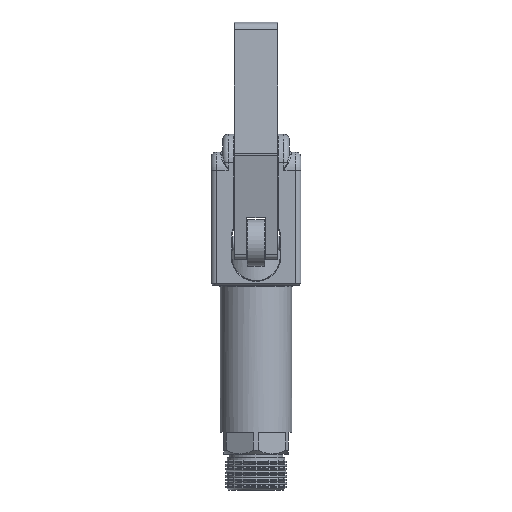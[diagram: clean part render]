
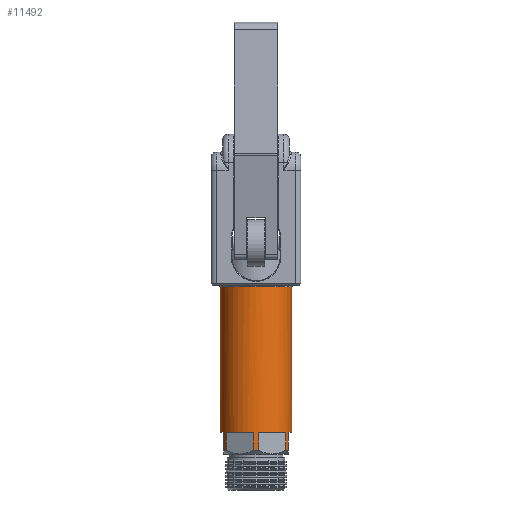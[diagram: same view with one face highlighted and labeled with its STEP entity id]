
A CAD part, front view. The second image highlights one B-rep face of the part: STEP entity #11492.
In plain terms, the highlighted cylindrical face has radius 10 mm (diameter 20 mm), a full revolution.
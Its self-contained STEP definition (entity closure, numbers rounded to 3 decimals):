
#4496=LINE('',#38486,#7866);
#4497=LINE('',#38487,#7867);
#4498=LINE('',#38489,#7868);
#4499=LINE('',#38490,#7869);
#4500=LINE('',#38492,#7870);
#4501=LINE('',#38493,#7871);
#4502=LINE('',#38495,#7872);
#4503=LINE('',#38496,#7873);
#4504=LINE('',#38498,#7874);
#4505=LINE('',#38499,#7875);
#4506=LINE('',#38501,#7876);
#4507=LINE('',#38502,#7877);
#7866=VECTOR('',#31033,1.);
#7867=VECTOR('',#31034,1.);
#7868=VECTOR('',#31037,1.);
#7869=VECTOR('',#31038,1.);
#7870=VECTOR('',#31041,1.);
#7871=VECTOR('',#31042,1.);
#7872=VECTOR('',#31045,1.);
#7873=VECTOR('',#31046,1.);
#7874=VECTOR('',#31049,1.);
#7875=VECTOR('',#31050,1.);
#7876=VECTOR('',#31053,1.);
#7877=VECTOR('',#31054,1.);
#11281=CYLINDRICAL_SURFACE('',#29114,10.);
#11492=ADVANCED_FACE('',(#13242,#13243),#11281,.T.);
#13242=FACE_BOUND('',#13538,.T.);
#13243=FACE_BOUND('',#13539,.T.);
#13538=EDGE_LOOP('',(#15851));
#13539=EDGE_LOOP('',(#15852,#15853,#15854,#15855,#15856,#15857,#15858,#15859,
#15860,#15861,#15862,#15863,#15864,#15865,#15866,#15867,#15868,#15869,#15870,
#15871,#15872,#15873,#15874,#15875));
#15851=ORIENTED_EDGE('',*,*,#25128,.T.);
#15852=ORIENTED_EDGE('',*,*,#24805,.T.);
#15853=ORIENTED_EDGE('',*,*,#24835,.F.);
#15854=ORIENTED_EDGE('',*,*,#24822,.T.);
#15855=ORIENTED_EDGE('',*,*,#24834,.F.);
#15856=ORIENTED_EDGE('',*,*,#24803,.T.);
#15857=ORIENTED_EDGE('',*,*,#24833,.F.);
#15858=ORIENTED_EDGE('',*,*,#24825,.T.);
#15859=ORIENTED_EDGE('',*,*,#24844,.F.);
#15860=ORIENTED_EDGE('',*,*,#24801,.T.);
#15861=ORIENTED_EDGE('',*,*,#24843,.F.);
#15862=ORIENTED_EDGE('',*,*,#24831,.T.);
#15863=ORIENTED_EDGE('',*,*,#24842,.F.);
#15864=ORIENTED_EDGE('',*,*,#24799,.T.);
#15865=ORIENTED_EDGE('',*,*,#24841,.F.);
#15866=ORIENTED_EDGE('',*,*,#24828,.T.);
#15867=ORIENTED_EDGE('',*,*,#24840,.F.);
#15868=ORIENTED_EDGE('',*,*,#24809,.T.);
#15869=ORIENTED_EDGE('',*,*,#24839,.F.);
#15870=ORIENTED_EDGE('',*,*,#24811,.T.);
#15871=ORIENTED_EDGE('',*,*,#24838,.F.);
#15872=ORIENTED_EDGE('',*,*,#24807,.T.);
#15873=ORIENTED_EDGE('',*,*,#24837,.F.);
#15874=ORIENTED_EDGE('',*,*,#24817,.F.);
#15875=ORIENTED_EDGE('',*,*,#24836,.F.);
#22725=VERTEX_POINT('',#38380);
#22726=VERTEX_POINT('',#38381);
#22727=VERTEX_POINT('',#38385);
#22728=VERTEX_POINT('',#38386);
#22729=VERTEX_POINT('',#38390);
#22730=VERTEX_POINT('',#38391);
#22731=VERTEX_POINT('',#38395);
#22732=VERTEX_POINT('',#38396);
#22733=VERTEX_POINT('',#38400);
#22734=VERTEX_POINT('',#38401);
#22735=VERTEX_POINT('',#38405);
#22736=VERTEX_POINT('',#38406);
#22737=VERTEX_POINT('',#38413);
#22739=VERTEX_POINT('',#38416);
#22744=VERTEX_POINT('',#38430);
#22745=VERTEX_POINT('',#38432);
#22747=VERTEX_POINT('',#38442);
#22748=VERTEX_POINT('',#38444);
#22749=VERTEX_POINT('',#38454);
#22750=VERTEX_POINT('',#38456);
#22751=VERTEX_POINT('',#38466);
#22752=VERTEX_POINT('',#38468);
#22753=VERTEX_POINT('',#38478);
#22754=VERTEX_POINT('',#38480);
#22930=VERTEX_POINT('',#39560);
#24799=EDGE_CURVE('',#22726,#22725,#28554,.T.);
#24801=EDGE_CURVE('',#22728,#22727,#28555,.T.);
#24803=EDGE_CURVE('',#22730,#22729,#28556,.T.);
#24805=EDGE_CURVE('',#22732,#22731,#28557,.T.);
#24807=EDGE_CURVE('',#22734,#22733,#28558,.T.);
#24809=EDGE_CURVE('',#22736,#22735,#28559,.T.);
#24811=EDGE_CURVE('',#22739,#22737,#28560,.T.);
#24817=EDGE_CURVE('',#22744,#22745,#28564,.T.);
#24822=EDGE_CURVE('',#22748,#22747,#28567,.T.);
#24825=EDGE_CURVE('',#22750,#22749,#28568,.T.);
#24828=EDGE_CURVE('',#22752,#22751,#28569,.T.);
#24831=EDGE_CURVE('',#22754,#22753,#28570,.T.);
#24833=EDGE_CURVE('',#22750,#22729,#4496,.T.);
#24834=EDGE_CURVE('',#22730,#22747,#4497,.T.);
#24835=EDGE_CURVE('',#22748,#22731,#4498,.T.);
#24836=EDGE_CURVE('',#22732,#22744,#4499,.T.);
#24837=EDGE_CURVE('',#22745,#22733,#4500,.T.);
#24838=EDGE_CURVE('',#22734,#22737,#4501,.T.);
#24839=EDGE_CURVE('',#22739,#22735,#4502,.T.);
#24840=EDGE_CURVE('',#22736,#22751,#4503,.T.);
#24841=EDGE_CURVE('',#22752,#22725,#4504,.T.);
#24842=EDGE_CURVE('',#22726,#22753,#4505,.T.);
#24843=EDGE_CURVE('',#22754,#22727,#4506,.T.);
#24844=EDGE_CURVE('',#22728,#22749,#4507,.T.);
#25128=EDGE_CURVE('',#22930,#22930,#28679,.T.);
#28554=CIRCLE('',#28863,10.);
#28555=CIRCLE('',#28865,10.);
#28556=CIRCLE('',#28867,10.);
#28557=CIRCLE('',#28869,10.);
#28558=CIRCLE('',#28871,10.);
#28559=CIRCLE('',#28873,10.);
#28560=CIRCLE('',#28875,10.);
#28564=CIRCLE('',#28880,10.);
#28567=CIRCLE('',#28884,10.);
#28568=CIRCLE('',#28886,10.);
#28569=CIRCLE('',#28888,10.);
#28570=CIRCLE('',#28890,10.);
#28679=CIRCLE('',#29112,10.);
#28863=AXIS2_PLACEMENT_3D('',#38382,#30968,#30969);
#28865=AXIS2_PLACEMENT_3D('',#38387,#30973,#30974);
#28867=AXIS2_PLACEMENT_3D('',#38392,#30978,#30979);
#28869=AXIS2_PLACEMENT_3D('',#38397,#30983,#30984);
#28871=AXIS2_PLACEMENT_3D('',#38402,#30988,#30989);
#28873=AXIS2_PLACEMENT_3D('',#38407,#30993,#30994);
#28875=AXIS2_PLACEMENT_3D('',#38415,#30997,#30998);
#28880=AXIS2_PLACEMENT_3D('',#38431,#31008,#31009);
#28884=AXIS2_PLACEMENT_3D('',#38443,#31017,#31018);
#28886=AXIS2_PLACEMENT_3D('',#38455,#31021,#31022);
#28888=AXIS2_PLACEMENT_3D('',#38467,#31025,#31026);
#28890=AXIS2_PLACEMENT_3D('',#38479,#31029,#31030);
#29112=AXIS2_PLACEMENT_3D('',#39559,#31623,#31624);
#29114=AXIS2_PLACEMENT_3D('',#39562,#31627,#31628);
#30968=DIRECTION('',(0.,0.,1.));
#30969=DIRECTION('',(1.,0.,0.));
#30973=DIRECTION('',(0.,0.,1.));
#30974=DIRECTION('',(1.,0.,0.));
#30978=DIRECTION('',(0.,0.,1.));
#30979=DIRECTION('',(1.,0.,0.));
#30983=DIRECTION('',(0.,0.,1.));
#30984=DIRECTION('',(1.,0.,0.));
#30988=DIRECTION('',(0.,0.,1.));
#30989=DIRECTION('',(1.,0.,0.));
#30993=DIRECTION('',(0.,0.,1.));
#30994=DIRECTION('',(1.,0.,0.));
#30997=DIRECTION('',(0.,0.,1.));
#30998=DIRECTION('',(-1.,0.,0.));
#31008=DIRECTION('',(0.,0.,-1.));
#31009=DIRECTION('',(-1.,0.,0.));
#31017=DIRECTION('',(0.,0.,1.));
#31018=DIRECTION('',(-1.,0.,0.));
#31021=DIRECTION('',(0.,0.,1.));
#31022=DIRECTION('',(-1.,0.,0.));
#31025=DIRECTION('',(0.,0.,1.));
#31026=DIRECTION('',(-1.,0.,0.));
#31029=DIRECTION('',(0.,0.,1.));
#31030=DIRECTION('',(-1.,0.,0.));
#31033=DIRECTION('',(0.,0.,1.));
#31034=DIRECTION('',(0.,0.,-1.));
#31037=DIRECTION('',(0.,0.,1.));
#31038=DIRECTION('',(0.,0.,-1.));
#31041=DIRECTION('',(0.,0.,1.));
#31042=DIRECTION('',(0.,0.,-1.));
#31045=DIRECTION('',(0.,0.,1.));
#31046=DIRECTION('',(0.,0.,-1.));
#31049=DIRECTION('',(0.,0.,1.));
#31050=DIRECTION('',(0.,0.,-1.));
#31053=DIRECTION('',(0.,0.,1.));
#31054=DIRECTION('',(0.,0.,-1.));
#31623=DIRECTION('',(0.,0.,-1.));
#31624=DIRECTION('',(1.,0.,0.));
#31627=DIRECTION('',(0.,0.,-1.));
#31628=DIRECTION('',(1.,0.,0.));
#38380=CARTESIAN_POINT('',(4.517,7.621,49.));
#38381=CARTESIAN_POINT('',(4.517,-1.097,49.));
#38382=CARTESIAN_POINT('',(-4.483,3.262,49.));
#38385=CARTESIAN_POINT('',(3.792,-2.353,49.));
#38386=CARTESIAN_POINT('',(-3.758,-6.712,49.));
#38387=CARTESIAN_POINT('',(-4.483,3.262,49.));
#38390=CARTESIAN_POINT('',(-5.208,-6.712,49.));
#38391=CARTESIAN_POINT('',(-12.758,-2.353,49.));
#38392=CARTESIAN_POINT('',(-4.483,3.262,49.));
#38395=CARTESIAN_POINT('',(-13.483,-1.097,49.));
#38396=CARTESIAN_POINT('',(-13.483,7.621,49.));
#38397=CARTESIAN_POINT('',(-4.483,3.262,49.));
#38400=CARTESIAN_POINT('',(-12.758,8.877,49.));
#38401=CARTESIAN_POINT('',(-5.208,13.236,49.));
#38402=CARTESIAN_POINT('',(-4.483,3.262,49.));
#38405=CARTESIAN_POINT('',(-3.758,13.236,49.));
#38406=CARTESIAN_POINT('',(3.792,8.877,49.));
#38407=CARTESIAN_POINT('',(-4.483,3.262,49.));
#38413=CARTESIAN_POINT('',(-5.208,13.236,44.));
#38415=CARTESIAN_POINT('',(-4.483,3.262,44.));
#38416=CARTESIAN_POINT('',(-3.758,13.236,44.));
#38430=CARTESIAN_POINT('',(-13.483,7.621,43.));
#38431=CARTESIAN_POINT('',(-4.483,3.262,43.));
#38432=CARTESIAN_POINT('',(-12.758,8.877,43.));
#38442=CARTESIAN_POINT('',(-12.758,-2.353,44.));
#38443=CARTESIAN_POINT('',(-4.483,3.262,44.));
#38444=CARTESIAN_POINT('',(-13.483,-1.097,44.));
#38454=CARTESIAN_POINT('',(-3.758,-6.712,44.));
#38455=CARTESIAN_POINT('',(-4.483,3.262,44.));
#38456=CARTESIAN_POINT('',(-5.208,-6.712,44.));
#38466=CARTESIAN_POINT('',(3.792,8.877,44.));
#38467=CARTESIAN_POINT('',(-4.483,3.262,44.));
#38468=CARTESIAN_POINT('',(4.517,7.621,44.));
#38478=CARTESIAN_POINT('',(4.517,-1.097,44.));
#38479=CARTESIAN_POINT('',(-4.483,3.262,44.));
#38480=CARTESIAN_POINT('',(3.792,-2.353,44.));
#38486=CARTESIAN_POINT('',(-5.208,-6.712,63.));
#38487=CARTESIAN_POINT('',(-12.758,-2.353,63.));
#38489=CARTESIAN_POINT('',(-13.483,-1.097,63.));
#38490=CARTESIAN_POINT('',(-13.483,7.621,63.));
#38492=CARTESIAN_POINT('',(-12.758,8.877,63.));
#38493=CARTESIAN_POINT('',(-5.208,13.236,63.));
#38495=CARTESIAN_POINT('',(-3.758,13.236,63.));
#38496=CARTESIAN_POINT('',(3.792,8.877,63.));
#38498=CARTESIAN_POINT('',(4.517,7.621,63.));
#38499=CARTESIAN_POINT('',(4.517,-1.097,63.));
#38501=CARTESIAN_POINT('',(3.792,-2.353,63.));
#38502=CARTESIAN_POINT('',(-3.758,-6.712,63.));
#39559=CARTESIAN_POINT('',(-4.483,3.262,89.5));
#39560=CARTESIAN_POINT('',(5.517,3.262,89.5));
#39562=CARTESIAN_POINT('',(-4.483,3.262,90.));
